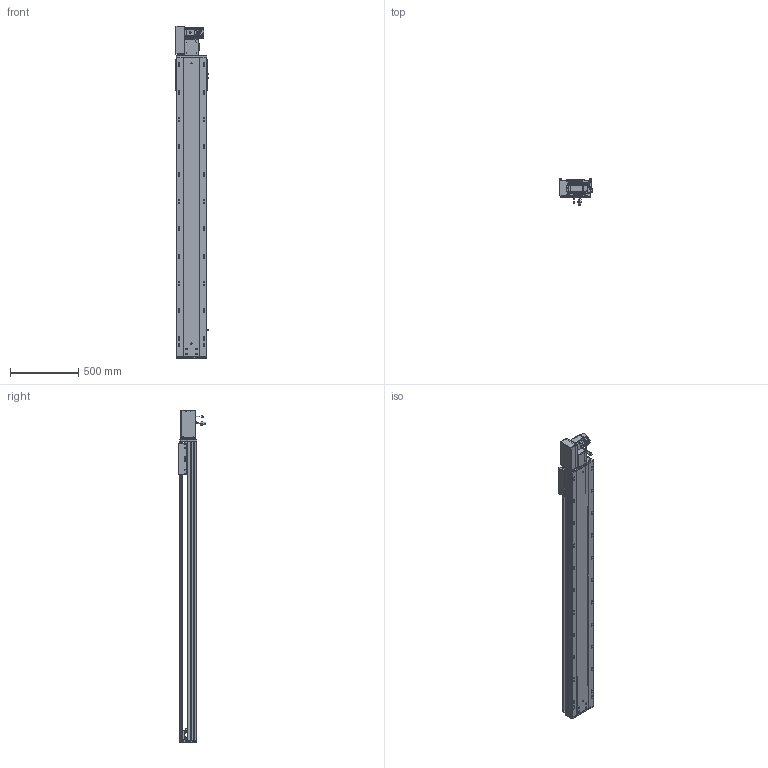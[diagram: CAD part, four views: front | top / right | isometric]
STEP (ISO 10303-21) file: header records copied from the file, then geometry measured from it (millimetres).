
FILE_DESCRIPTION (( 'STEP AP203' ), '1' );
FILE_NAME ('RY220-T-300-LK.SLDASM_1850.step', '2022-07-25T08:15:01', ( '' ), ( '' ), 'SwSTEP 2.0', 'SolidWorks 2016', '' );
FILE_SCHEMA (( 'CONFIG_CONTROL_DESIGN' ));
Length unit declared in the file: millimetre
Products named in the file (14): RY220-T-湍謫欶(鍼踢); RY220-T菁釱-300_1850; 覜茼ん672; RY220-俋离672覜茼んえ; 110A-T-肮祭謫釱傷裔; RY220圉猾敕々湍臏賑輸; 怢湛750W_ECMA-CX0807ES; RY220翋肮祭謫釱; 滅袉蝶18-15; RY220-T-300-奻裔啣_1850; RY220-T-蛌殏萇儂假蚾啣(750W); RY220翋肮祭謫裔啣; RY220-同步轮副支撑座6304×2; RY220-T-300-LK.SLDASM_1850
Assembly tree (18 placements, depth 2):
  RY220-T-300-LK.SLDASM_1850
    RY220-T菁釱-300_1850
    RY220翋肮祭謫釱
    覜茼ん672  x3
    RY220圉猾敕々湍臏賑輸
    RY220-T-300-奻裔啣_1850
    RY220-俋离672覜茼んえ
    滅袉蝶18-15  x3
    RY220翋肮祭謫裔啣  x2
    110A-T-肮祭謫釱傷裔
    怢湛750W_ECMA-CX0807ES
    RY220-T-湍謫欶(鍼踢)
    RY220-T-蛌殏萇儂假蚾啣(750W)
    RY220-同步轮副支撑座6304×2
Bounding box: 239.7 x 198.77 x 2429 mm (x, y, z)
Volume: 17757635.7 mm3; surface area: 5374063 mm2
Topology: 19 solids, 19 shells, 2806 faces, 7755 edges, 4890 vertices
Faces by surface type: cylinder 1350, plane 1069, cone 305, bspline 56, sphere 16, torus 10
Entity records: 93539 total; most frequent: CARTESIAN_POINT 26559, ORIENTED_EDGE 13882, DIRECTION 13256, EDGE_CURVE 6941, AXIS2_PLACEMENT_3D 4736, VERTEX_POINT 4514, LINE 3784, VECTOR 3784
